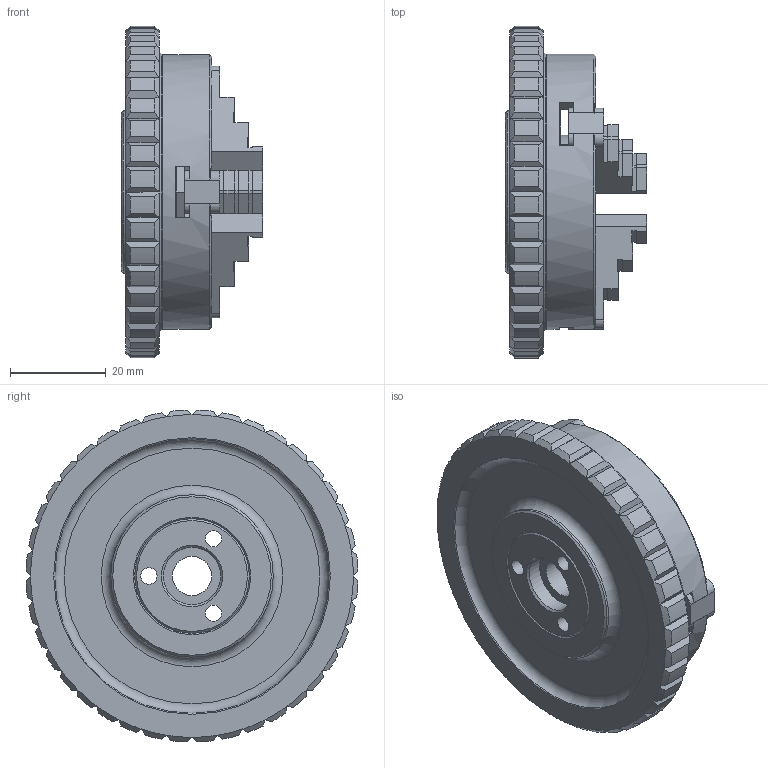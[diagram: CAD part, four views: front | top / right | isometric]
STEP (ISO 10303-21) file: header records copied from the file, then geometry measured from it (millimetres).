
FILE_DESCRIPTION(/* description */ (''),/* implementation_level */ '2;1');
FILE_NAME(/* name */ 'D:\03 Projekte\Futtervariationen\(2) Dateien für Webseite\DBF63\DBF63_00-00 Dreibackenfutter DBF63.iam.stp',/* time_stamp */ '2022-01-27T15:16:21+01:00',/* author */ ('D. Pustolla'),/* organization */ (''),/* preprocessor_version */ 'ST-DEVELOPER v15.2',/* originating_system */ 'Autodesk Inventor 2014',/* authorisation */ '');
FILE_SCHEMA (('AUTOMOTIVE_DESIGN { 1 0 10303 214 3 1 1 }'));
Length unit declared in the file: millimetre
Products named in the file (6): DBF63_00-11 Spannring; DBF63_00-12 Futterkörper; DBF63_00-13 Spannbacken 1; DBF63_00-14 Spannbacken 2; DBF63_00-15 Spannbacken 3; DBF63_00-00 Dreibackenfutter DBF63
Bounding box: 29.65 x 69.47 x 69.47 mm (x, y, z)
Volume: 49310.3 mm3; surface area: 24217.6 mm2
Topology: 5 solids, 5 shells, 450 faces, 1134 edges, 695 vertices
Faces by surface type: plane 283, cone 93, cylinder 71, torus 3
Full cylindrical faces by diameter (mm): 3.4 x3, 6 x3, 8.2 x1, 10.1 x1, 12 x1, 23.8 x1, 24 x2, 34 x1, 50.3 x1, 51.7 x1, 57.6 x1
Entity records: 13494 total; most frequent: CARTESIAN_POINT 2579, ORIENTED_EDGE 2196, DIRECTION 2123, EDGE_CURVE 1098, AXIS2_PLACEMENT_3D 730, VERTEX_POINT 688, LINE 663, VECTOR 663
